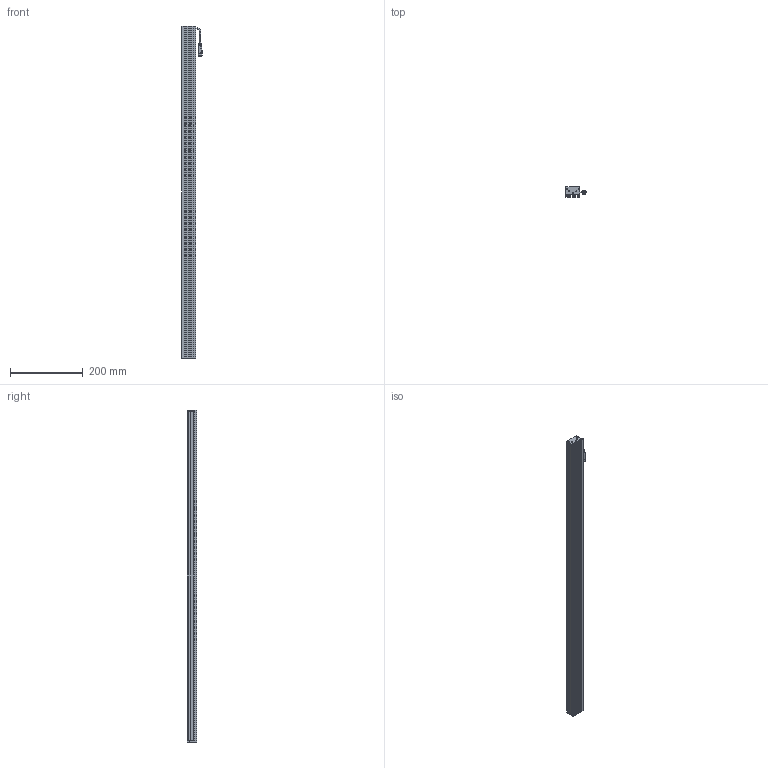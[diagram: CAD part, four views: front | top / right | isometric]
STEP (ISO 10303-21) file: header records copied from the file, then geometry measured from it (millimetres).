
FILE_DESCRIPTION (( 'STEP AP203' ), '1' );
FILE_NAME ('CK-BL91238.STEP', '2026-01-29T07:44:21', ( '' ), ( '' ), 'SwSTEP 2.0', 'SolidWorks 2022', '' );
FILE_SCHEMA (( 'CONFIG_CONTROL_DESIGN' ));
Length unit declared in the file: millimetre
Products named in the file (6): CK91238-001A; 十字沉头螺丝 M2x10; CK-BL91238-003A; CK-BL91238-002A; CK-BL91238; 光源线
Assembly tree (11 placements, depth 2):
  CK-BL91238
    CK91238-001A
    CK-BL91238-002A  x2
    CK-BL91238-003A
    光源线
    十字沉头螺丝 M2x10  x6
Bounding box: 55.84 x 27 x 912 mm (x, y, z)
Volume: 367792.4 mm3; surface area: 316914.4 mm2
Topology: 13 solids, 13 shells, 641 faces, 1692 edges, 1082 vertices
Faces by surface type: plane 353, cylinder 210, cone 46, bspline 32
Entity records: 16373 total; most frequent: CARTESIAN_POINT 3399, ORIENTED_EDGE 2598, DIRECTION 2515, EDGE_CURVE 1299, LINE 875, VECTOR 875, VERTEX_POINT 846, AXIS2_PLACEMENT_3D 820
